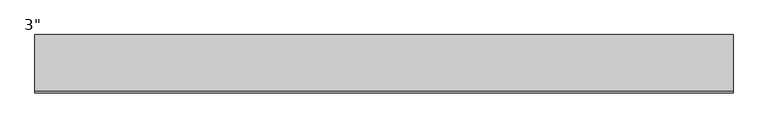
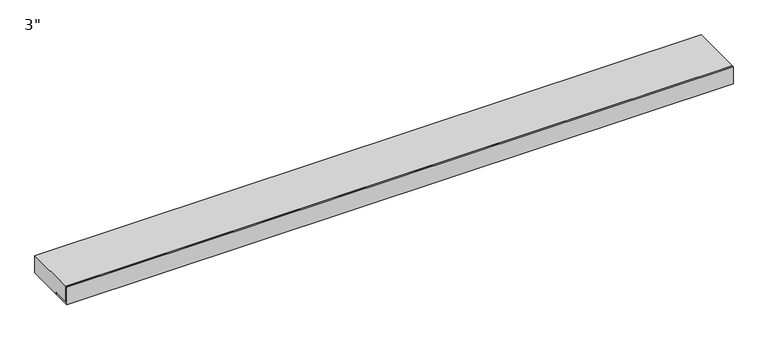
"""IFC4 building model written with IfcOpenShell, lengths in millimetres: proxy geometry."""

from ifc_helpers import new_model, si_unit, frame, origin, place, context, project, spatial, polyline, outline, extrude, faceted_brep, source, transform, mapped, element, save


def proxy_6a3b431c(model_context):
    return source(origin(), model_context, "Body", "SolidModel", [
        faceted_brep([(1219.2, 101.6, 9.525), (1219.2, 101.6, 76.2), (1219.2, -95.25, 76.2), (1219.2, -95.25, 15.875), (1219.2, -34.925, 15.875), (1219.2, -34.925, 9.525), (-1219.2, -34.925, 9.525), (-1219.2, -34.925, 15.875), (-1219.2, -95.25, 15.875), (-1219.2, -95.25, 76.2), (-1219.2, 101.6, 76.2), (-1219.2, 101.6, 9.525), (1193.8, 101.6, 9.525), (1041.4, 101.6, 9.525), (990.6, 101.6, 9.525), (838.2, 101.6, 9.525), (787.4, 101.6, 9.525), (635.0, 101.6, 9.525), (584.2, 101.6, 9.525), (431.8, 101.6, 9.525), (381.0, 101.6, 9.525), (228.6, 101.6, 9.525), (177.8, 101.6, 9.525), (25.4, 101.6, 9.525), (-25.4, 101.6, 9.525), (-177.8, 101.6, 9.525), (-228.6, 101.6, 9.525), (-381.0, 101.6, 9.525), (-431.8, 101.6, 9.525), (-584.2, 101.6, 9.525), (-635.0, 101.6, 9.525), (-787.4, 101.6, 9.525), (-838.2, 101.6, 9.525), (-990.6, 101.6, 9.525), (-1041.4, 101.6, 9.525), (-1193.8, 101.6, 9.525), (-990.6, 92.075, 0.0), (-838.2, 92.075, 0.0), (-838.2, -25.4, 0.0), (-990.6, -25.4, 0.0), (-787.4, 92.075, 0.0), (-635.0, 92.075, 0.0), (-635.0, -25.4, 0.0), (-787.4, -25.4, 0.0), (-584.2, 92.075, 0.0), (-431.8, 92.075, 0.0), (-431.8, -25.4, 0.0), (-584.2, -25.4, 0.0), (-381.0, 92.075, 0.0), (-228.6, 92.075, 0.0), (-228.6, -25.4, 0.0), (-381.0, -25.4, 0.0), (-177.8, 92.075, 0.0), (-25.4, 92.075, 0.0), (-25.4, -25.4, 0.0), (-177.8, -25.4, 0.0), (25.4, 92.075, 0.0), (177.8, 92.075, 0.0), (177.8, -25.4, 0.0), (25.4, -25.4, 0.0), (228.6, 92.075, 0.0), (381.0, 92.075, 0.0), (381.0, -25.4, 0.0), (228.6, -25.4, 0.0), (431.8, 92.075, 0.0), (584.2, 92.075, 0.0), (584.2, -25.4, 0.0), (431.8, -25.4, 0.0), (635.0, 92.075, 0.0), (787.4, 92.075, 0.0), (787.4, -25.4, 0.0), (635.0, -25.4, 0.0), (838.2, 92.075, 0.0), (990.6, 92.075, 0.0), (990.6, -25.4, 0.0), (838.2, -25.4, 0.0), (1041.4, 92.075, 0.0), (1193.8, 92.075, 0.0), (1193.8, -25.4, 0.0), (1041.4, -25.4, 0.0), (-1193.8, 92.075, 0.0), (-1041.4, 92.075, 0.0), (-1041.4, -25.4, 0.0), (-1193.8, -25.4, 0.0), (-1193.8, -34.925, 9.525), (-1041.4, -34.925, 9.525), (-990.6, -34.925, 9.525), (-838.2, -34.925, 9.525), (-787.4, -34.925, 9.525), (-635.0, -34.925, 9.525), (-584.2, -34.925, 9.525), (-431.8, -34.925, 9.525), (-381.0, -34.925, 9.525), (-228.6, -34.925, 9.525), (-177.8, -34.925, 9.525), (-25.4, -34.925, 9.525), (25.4, -34.925, 9.525), (177.8, -34.925, 9.525), (228.6, -34.925, 9.525), (381.0, -34.925, 9.525), (431.8, -34.925, 9.525), (584.2, -34.925, 9.525), (635.0, -34.925, 9.525), (787.4, -34.925, 9.525), (838.2, -34.925, 9.525), (990.6, -34.925, 9.525), (1041.4, -34.925, 9.525), (1193.8, -34.925, 9.525)], [[[0, 1, 2, 3, 4, 5]], [[6, 7, 8, 9, 10, 11]], [[4, 3, 8, 7]], [[3, 2, 9, 8]], [[2, 1, 10, 9]], [[1, 0, 12, 13, 14, 15, 16, 17, 18, 19, 20, 21, 22, 23, 24, 25, 26, 27, 28, 29, 30, 31, 32, 33, 34, 35, 11, 10]], [[36, 37, 38, 39]], [[40, 41, 42, 43]], [[44, 45, 46, 47]], [[48, 49, 50, 51]], [[52, 53, 54, 55]], [[56, 57, 58, 59]], [[60, 61, 62, 63]], [[64, 65, 66, 67]], [[68, 69, 70, 71]], [[72, 73, 74, 75]], [[76, 77, 78, 79]], [[80, 81, 82, 83]], [[5, 4, 7, 6, 84, 85, 86, 87, 88, 89, 90, 91, 92, 93, 94, 95, 96, 97, 98, 99, 100, 101, 102, 103, 104, 105, 106, 107]], [[37, 36, 33, 32]], [[41, 40, 31, 30]], [[45, 44, 29, 28]], [[49, 48, 27, 26]], [[53, 52, 25, 24]], [[57, 56, 23, 22]], [[61, 60, 21, 20]], [[65, 64, 19, 18]], [[69, 68, 17, 16]], [[73, 72, 15, 14]], [[77, 76, 13, 12]], [[81, 80, 35, 34]], [[85, 84, 83, 82]], [[87, 86, 39, 38]], [[89, 88, 43, 42]], [[91, 90, 47, 46]], [[93, 92, 51, 50]], [[95, 94, 55, 54]], [[97, 96, 59, 58]], [[99, 98, 63, 62]], [[101, 100, 67, 66]], [[103, 102, 71, 70]], [[105, 104, 75, 74]], [[107, 106, 79, 78]], [[86, 33, 36, 39]], [[33, 86, 85, 34]], [[34, 85, 82, 81]], [[88, 31, 40, 43]], [[31, 88, 87, 32]], [[32, 87, 38, 37]], [[90, 29, 44, 47]], [[29, 90, 89, 30]], [[30, 89, 42, 41]], [[92, 27, 48, 51]], [[27, 92, 91, 28]], [[28, 91, 46, 45]], [[94, 25, 52, 55]], [[25, 94, 93, 26]], [[26, 93, 50, 49]], [[96, 23, 56, 59]], [[23, 96, 95, 24]], [[24, 95, 54, 53]], [[98, 21, 60, 63]], [[21, 98, 97, 22]], [[22, 97, 58, 57]], [[100, 19, 64, 67]], [[19, 100, 99, 20]], [[20, 99, 62, 61]], [[102, 17, 68, 71]], [[17, 102, 101, 18]], [[18, 101, 66, 65]], [[104, 15, 72, 75]], [[15, 104, 103, 16]], [[16, 103, 70, 69]], [[106, 13, 76, 79]], [[13, 106, 105, 14]], [[14, 105, 74, 73]], [[107, 12, 0, 5]], [[12, 107, 78, 77]], [[35, 84, 6, 11]], [[84, 35, 80, 83]]]),
        extrude(outline(polyline([(-101.6, 76.2), (-95.25, 76.2), (-95.25, 15.875), (-34.925, 15.875), (-34.925, 9.525), (-101.6, 9.525), (-101.6, 76.2)])), frame((-1219.2, 0.0, 0.0), z_axis=(1.0, 0.0, 0.0), x_axis=(0.0, 1.0, 0.0)), (0.0, 0.0, 1.0), 2438.4),
    ])


if __name__ == "__main__":
    model = new_model("IFC4")
    model_context = context("Model", 3, world=origin())
    ifc_project = project(units=[si_unit("LENGTHUNIT", "METRE", prefix="MILLI")], contexts=[model_context])
    site = spatial("IfcSite", under=ifc_project)
    building = spatial("IfcBuilding", under=site)
    placement = place(None, origin())
    proxy_shape = proxy_6a3b431c(model_context)
    element("IfcBuildingElementProxy", 1, Name="Durabond Generic Model Insulite Select Extruded Vent Board : 3\"", ObjectType="Durabond Generic Model Insulite Select Extruded Vent Board : 3\"", at=placement, inside=building, context=model_context, shape_type="MappedRepresentation", body=[
        mapped(proxy_shape, transform((0.0, 0.0, 0.0), x_axis=(1.0, 0.0, 0.0), y_axis=(0.0, 1.0, 0.0), z_axis=(0.0, 0.0, 1.0))),
    ])
    save(model, "model.ifc")
